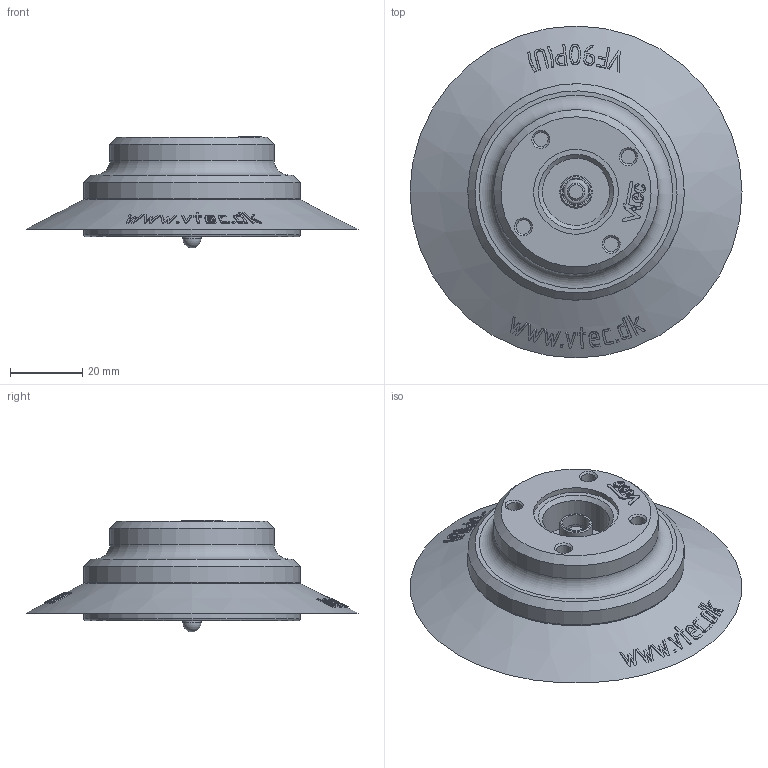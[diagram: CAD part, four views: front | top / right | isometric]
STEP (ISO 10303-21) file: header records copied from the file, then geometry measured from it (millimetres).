
FILE_DESCRIPTION( ( 'Unknown' ), '1' );
FILE_NAME( 'C:/Documents and Settings/owner/官帕 拳搁/MISUMI/PAD/VF/VF90-PU-12FA-BV.stp', 'Unknown', ( 'Unknown' ), ( 'Unknown' ), 'XStep 1.0', 'Unknown', ' ' );
FILE_SCHEMA( ( 'automotive_design' ) );
Length unit declared in the file: millimetre
Products named in the file (5): Assem1; 1_3; 2_3; VF75 BV
Bounding box: 92 x 92 x 31 mm (x, y, z)
Volume: 100145 mm3; surface area: 56765.8 mm2
Topology: 8 solids, 8 shells, 1308 faces, 3514 edges, 2322 vertices
Faces by surface type: plane 728, cylinder 320, bspline 128, cone 80, extrusion 40, torus 10, sphere 2
Full cylindrical faces by diameter (mm): 0.791 x2, 4 x16, 4.9 x2, 5 x2, 6.4 x8, 7.5 x2, 9 x2, 10.5 x2, 11 x2, 15 x4, 18.6 x2, 23.5 x2, 25 x2, 45.6 x2, 55 x4, 60 x2
Entity records: 31097 total; most frequent: CARTESIAN_POINT 11178, ORIENTED_EDGE 3368, DIRECTION 2943, EDGE_CURVE 1684, VERTEX_POINT 1140, AXIS2_PLACEMENT_3D 983, VECTOR 977, LINE 957
